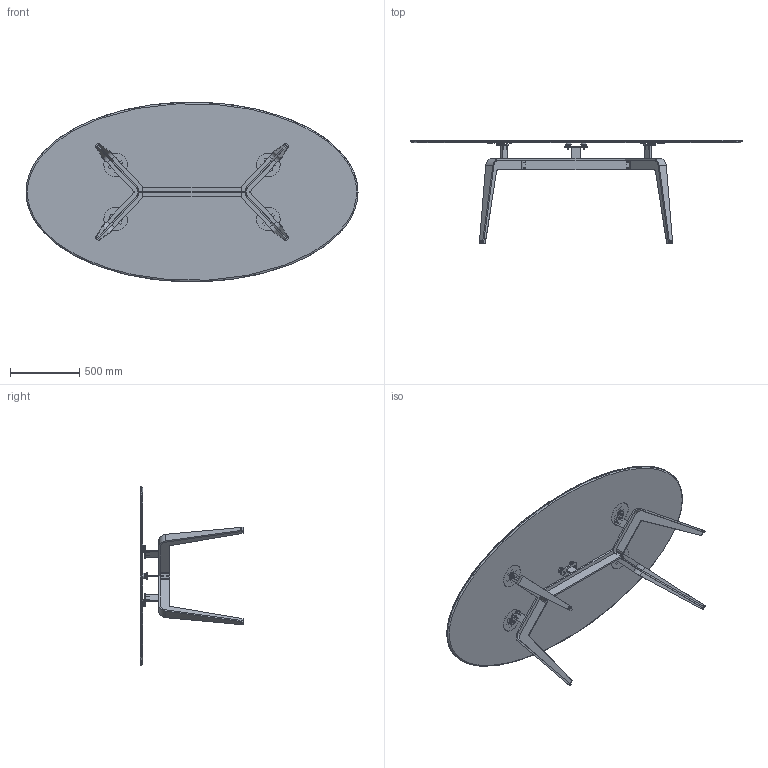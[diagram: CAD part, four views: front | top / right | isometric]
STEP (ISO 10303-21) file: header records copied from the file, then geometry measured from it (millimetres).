
FILE_DESCRIPTION (( 'STEP AP203' ), '1' );
FILE_NAME ('Table Odessa ovale plateau grès L240x130.STEP', '2026-10-06T13:44:37', ( '' ), ( '' ), 'SwSTEP 2.0', 'SolidWorks 2023', '' );
FILE_SCHEMA (( 'CONFIG_CONTROL_DESIGN' ));
Length unit declared in the file: millimetre
Products named in the file (14): 0007aa0_030-Plateau oval 240 grès- ép 16.38; Vis M6x16 TBHC Zinguée (81079230)_Zinguée; Table Odessa ovale plateau grès L240x130; 0008dd9; 000af63_010-Platine D170 M6; 0007a92_010-Demi-Pietement table ronde ou ovale<Brut d''usinage>; 0007b88_050 - Plateau oval 240 avec platines - gres marbre; Rondelle 06x18 (81078854)_Zinguée; 00078c3_010-Platine de plateau; 0007caf_010-Rondelle à denture extérieure chevauchante AZ - DIN 6798 A - Acier ressort Zn 400 HBS; 0003c34_010-Patin pietement LMV; 0007aa8_010-Longeron table ovale; 0007a9f_010 - Piétement complet table ovale; Vis M6x20 TBHC Zinguée (81064950)_Zinguée
Assembly tree (58 placements, depth 3):
  Table Odessa ovale plateau grès L240x130
    0007b88_050 - Plateau oval 240 avec platines - gres marbre
      0007aa0_030-Plateau oval 240 grès- ép 16.38
      00078c3_010-Platine de plateau  x2
      000af63_010-Platine D170 M6  x4
    0007a9f_010 - Piétement complet table ovale
      0007a92_010-Demi-Pietement table ronde ou ovale<Brut d''usinage>  x2
      0003c34_010-Patin pietement LMV  x4
      0007aa8_010-Longeron table ovale
      Vis M6x20 TBHC Zinguée (81064950)_Zinguée  x14
      0007caf_010-Rondelle à denture extérieure chevauchante AZ - DIN 6798 A - Acier ressort Zn 400 HBS  x14
      Vis M6x16 TBHC Zinguée (81079230)_Zinguée  x2
      Rondelle 06x18 (81078854)_Zinguée  x2
      0008dd9  x2
    Rondelle 06x18 (81078854)_Zinguée  x4
    Vis M6x16 TBHC Zinguée (81079230)_Zinguée  x4
Bounding box: 2400 x 747.38 x 1299.44 mm (x, y, z)
Volume: 46599183.5 mm3; surface area: 6528477.6 mm2
Topology: 73 solids, 73 shells, 4540 faces, 10317 edges, 5950 vertices
Faces by surface type: cone 1786, cylinder 1615, plane 981, torus 148, bspline 10
Entity records: 34701 total; most frequent: CARTESIAN_POINT 10269, DIRECTION 4878, ORIENTED_EDGE 4370, EDGE_CURVE 2185, AXIS2_PLACEMENT_3D 1892, VERTEX_POINT 1324, VECTOR 1094, LINE 1094
